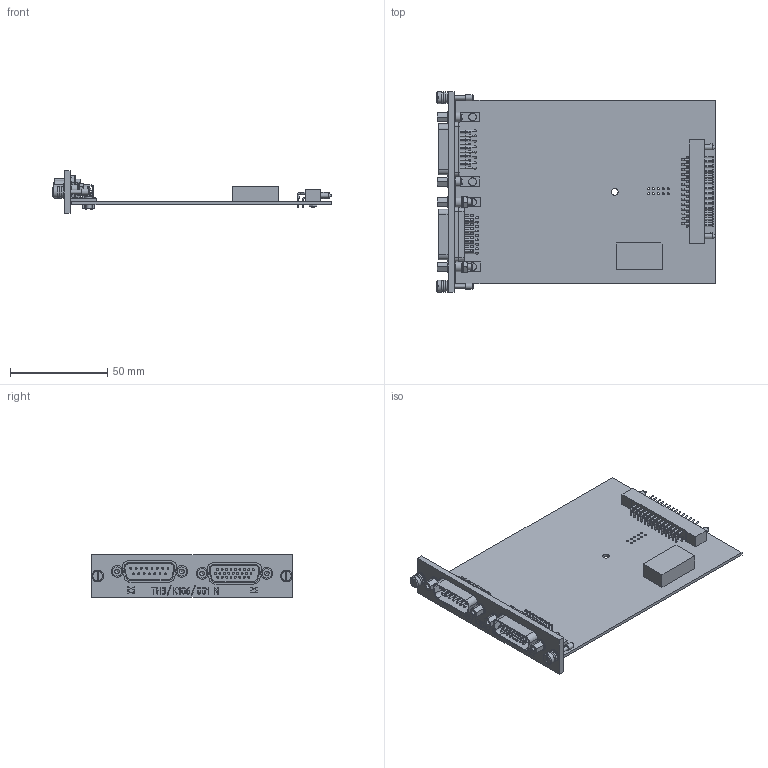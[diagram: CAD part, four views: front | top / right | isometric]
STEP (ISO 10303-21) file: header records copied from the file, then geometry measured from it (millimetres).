
FILE_DESCRIPTION(('STEP AP203'), '1');
FILE_NAME('ÊÌÍÒ.468153.003 Ìîäóëü ÒÍ3_Ê106_001', '', ('UNSPECIFIED'), ('UNSPECIFIED'), 'C3D Converter', 'C3D Toolkit', '');
FILE_SCHEMA(('CONFIG_CONTROL_DESIGN'));
Length unit declared in the file: millimetre
Products named in the file (1): КМНТ.468153.003
Bounding box: 143.63 x 103 x 21.7 mm (x, y, z)
Volume: 473.3 mm3; surface area: 42802.1 mm2
Topology: 2 solids, 3 shells, 2066 faces, 5530 edges, 3569 vertices
Faces by surface type: cylinder 1005, plane 848, torus 80, sphere 60, cone 44, revolution 29
Full cylindrical faces by diameter (mm): 0.6 x170, 0.76 x26, 0.8 x29, 1 x150, 1.6 x2, 2 x2, 2.362 x2, 2.459 x4, 2.49 x2, 2.5 x2, 2.7 x2, 3 x10, 3.1 x4, 3.175 x4, 3.2 x8, 3.4 x4, 3.5 x5, 4 x4, 5 x4, 6 x12
Entity records: 85175 total; most frequent: CARTESIAN_POINT 17383, DIRECTION 11267, ORIENTED_EDGE 9632, EDGE_CURVE 4816, AXIS2_PLACEMENT_3D 4559, VERTEX_POINT 3550, EDGE_LOOP 3136, CIRCLE 2521
